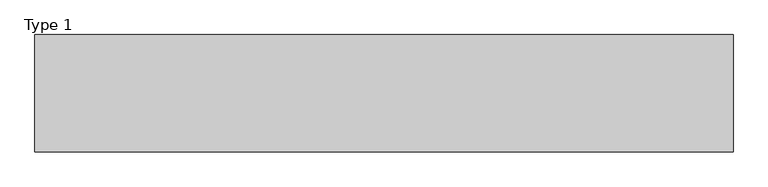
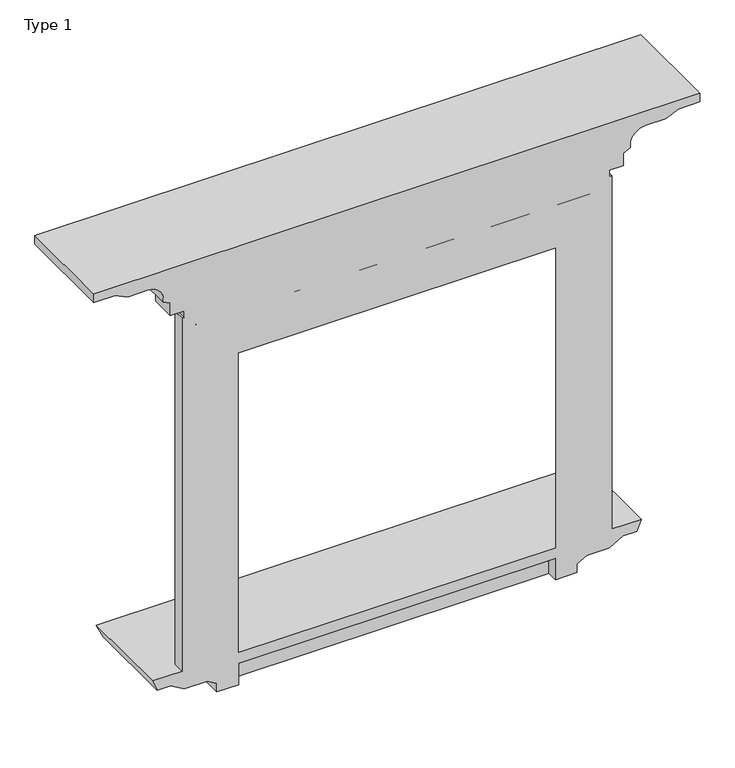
"""IFC4 building model written with IfcOpenShell, lengths in millimetres: proxy geometry, Family1.rfa1222wcd31 : Type 1."""

from ifc_helpers import new_model, si_unit, frame, origin, place, context, project, spatial, polyline, circle_curve, ellipse_curve, source, transform, mapped, element, save
from ifc_brep_helpers import plane_surface, revolved_surface, advanced_brep


def type_1_d73fb033(model_context):
    return source(origin(), model_context, "Body", "AdvancedBrep", [
        advanced_brep(
        [(-1215.0, 300.0, 2799.5096396), (-1215.0, 300.0, 2759.5096396), (-1120.0, 300.0, 2759.5096396), (-1065.6215328, 300.0, 2734.1525439), (-975.6215328, 300.0, 2734.1525439), (-908.1288338, 300.0, 2653.7178773), (-876.4080612, 300.0, 2638.9262382), (-876.4080612, 300.0, 2579.5096396), (-815.0, 300.0, 2579.5096396), (-815.0, 300.0, 2550.0), (-825.0, 300.0, 2550.0), (-825.0, 300.0, 900.0), (-955.0, 300.0, 900.0), (-935.3873986, 300.0, 850.0), (-875.0, 300.0, 850.0), (-814.3782217, 300.0, 815.0), (-714.3782217, 300.0, 815.0), (-671.0769515, 300.0, 790.0), (-671.0769515, 300.0, 750.0), (-575.0, 300.0, 750.0), (-575.0, 300.0, 850.0), (825.0, 300.0, 850.0), (825.0, 300.0, 750.0), (921.0769515, 300.0, 750.0), (921.0769515, 300.0, 790.0), (964.3782217, 300.0, 815.0), (1064.3782217, 300.0, 815.0), (1125.0, 300.0, 850.0), (1185.3873986, 300.0, 850.0), (1205.0, 300.0, 900.0), (1075.0, 300.0, 900.0), (1075.0, 300.0, 2550.0), (1064.3782217, 300.0, 2550.0), (1064.3782217, 300.0, 2579.5096396), (1125.7862829, 300.0, 2579.5096396), (1125.7862829, 300.0, 2638.9262382), (1157.5070555, 300.0, 2653.7178773), (1224.9997545, 300.0, 2734.1525439), (1314.9997545, 300.0, 2734.1525439), (1369.3782217, 300.0, 2759.5096396), (1464.3782217, 300.0, 2759.5096396), (1464.3782217, 300.0, 2799.5096396), (825.0, 300.0, 2300.0), (825.0, 300.0, 900.0), (-575.0, 300.0, 900.0), (-575.0, 300.0, 2300.0), (1464.3782217, 750.0, 2799.5096396), (-1215.0, 750.0, 2799.5096396), (-1215.0, 750.0, 2759.5096396), (1464.3782217, 750.0, 2759.5096396), (1369.3782217, 655.0, 2759.5096396), (-1120.0, 655.0, 2759.5096396), (-1065.6215328, 600.6215328, 2734.1525439), (1314.9997545, 600.6215328, 2734.1525439), (1224.9997545, 510.6215328, 2734.1525439), (-975.6215328, 510.6215328, 2734.1525439), (-908.1288338, 443.1288338, 2653.7178773), (-876.4080612, 411.4080612, 2638.9262382), (-876.4080612, 411.4080612, 2579.5096396), (1125.7862829, 411.4080612, 2579.5096396), (1064.3782217, 350.0, 2579.5096396), (-815.0, 350.0, 2579.5096396), (1157.5070555, 443.1288338, 2653.7178773), (1125.7862829, 411.4080612, 2638.9262382), (1064.3782217, 350.0, 2550.0), (-815.0, 350.0, 2550.0), (847.4975663, 326.8115555, 2322.4975663), (847.4975663, 326.8115555, 900.0), (-597.4975663, 326.8115555, 2322.4975663), (-597.4975663, 326.8115555, 900.0), (-637.4975663, 326.8115555, 900.0), (-637.4975663, 326.8115555, 2362.4975663), (887.4975663, 326.8115555, 2362.4975663), (887.4975663, 326.8115555, 900.0), (915.7237184, 328.4289525, 2390.7237184), (915.7237184, 328.4289525, 900.0), (-665.7237184, 328.4289525, 2390.7237184), (-665.7237184, 328.4289525, 900.0), (-695.7237184, 328.4289525, 900.0), (-695.7237184, 328.4289525, 2420.7237184), (945.7237184, 328.4289525, 2420.7237184), (945.7237184, 328.4289525, 900.0), (976.2275363, 350.0, 2451.2275363), (976.2275363, 350.0, 900.0), (-726.2275363, 350.0, 2451.2275363), (-726.2275363, 350.0, 900.0), (-752.6137347, 350.0, 900.0), (-752.6137347, 350.0, 2477.6137347), (1002.6137347, 350.0, 2477.6137347), (1002.6137347, 350.0, 900.0), (1003.6790562, 331.9713952, 2478.6790562), (1003.6790562, 331.9713952, 900.0), (-753.6790562, 331.9713952, 2478.6790562), (-753.6790562, 331.9713952, 900.0), (-793.6790562, 331.9713952, 900.0), (-793.6790562, 331.9713952, 2518.6790562), (1043.6790562, 331.9713952, 2518.6790562), (1043.6790562, 331.9713952, 900.0), (1050.5194591, 350.7652476, 2525.5194591), (1050.5194591, 350.7652476, 900.0), (-800.5194591, 350.7652476, 2525.5194591), (-800.5194591, 350.7652476, 900.0), (-825.0, 350.7652476, 900.0), (-825.0, 350.7652476, 2550.0), (1075.0, 350.7652476, 2550.0), (1075.0, 350.7652476, 900.0), (-955.0, 730.0, 900.0), (-935.3873986, 710.3873986, 850.0), (1185.3873986, 710.3873986, 850.0), (1125.0, 650.0, 850.0), (-875.0, 650.0, 850.0), (-814.3782217, 589.3782217, 815.0), (1064.3782217, 589.3782217, 815.0), (964.3782217, 489.3782217, 815.0), (-714.3782217, 489.3782217, 815.0), (-671.0769515, 446.0769515, 790.0), (-671.0769515, 446.0769515, 750.0), (921.0769515, 446.0769515, 750.0), (825.0, 350.0, 750.0), (-575.0, 350.0, 750.0), (-575.0, 350.0, 850.0), (1205.0, 730.0, 900.0), (921.0769515, 446.0769515, 790.0), (825.0, 350.0, 850.0)],
        [
            (0, 1),
            (1, 2),
            (2, 3),
            (3, 4),
            (4, 5, circle_curve(frame((-975.6215328, 300.0, 2665.6186612), z_axis=(0.0, 1.0, 0.0), x_axis=(-1.0, 0.0, 0.0)), 68.5338827)),
            (5, 6),
            (6, 7),
            (7, 8),
            (8, 9),
            (9, 10),
            (10, 11),
            (11, 12),
            (12, 13),
            (13, 14),
            (14, 15),
            (15, 16),
            (16, 17),
            (17, 18),
            (18, 19),
            (19, 20),
            (20, 21),
            (21, 22),
            (22, 23),
            (23, 24),
            (24, 25),
            (25, 26),
            (26, 27),
            (27, 28),
            (28, 29),
            (29, 30),
            (30, 31),
            (31, 32),
            (32, 33),
            (33, 34),
            (34, 35),
            (35, 36),
            (36, 37, circle_curve(frame((1224.9997545, 300.0, 2665.6186612), z_axis=(0.0, 1.0, 0.0), x_axis=(1.0, 0.0, 0.0)), 68.5338827)),
            (37, 38),
            (38, 39),
            (39, 40),
            (40, 41),
            (41, 0),
            (42, 43),
            (43, 44),
            (44, 45),
            (45, 42),
            (41, 46),
            (46, 47),
            (47, 0),
            (47, 48),
            (48, 1),
            (48, 49),
            (49, 40),
            (39, 50),
            (50, 51),
            (51, 2),
            (51, 52),
            (52, 3),
            (52, 53),
            (53, 38),
            (37, 54),
            (54, 55),
            (55, 4),
            (55, 56, ellipse_curve(frame((-975.6215328, 510.6215328, 2665.6186612), z_axis=(0.7071067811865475, 0.7071067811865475, 0.0), x_axis=(-0.7071067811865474, 0.7071067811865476, 0.0)), 96.9215464, 68.5338827)),
            (56, 5),
            (56, 57),
            (57, 6),
            (57, 58),
            (58, 7),
            (58, 59),
            (59, 34),
            (33, 60),
            (60, 61),
            (61, 8),
            (46, 49),
            (50, 53),
            (54, 62, ellipse_curve(frame((1224.9997545, 510.6215328, 2665.6186612), z_axis=(0.7071067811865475, -0.7071067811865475, 0.0), x_axis=(0.7071067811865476, 0.7071067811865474, 0.0)), 96.9215464, 68.5338827)),
            (62, 56),
            (62, 63),
            (63, 57),
            (63, 59),
            (36, 62),
            (35, 63),
            (60, 64),
            (64, 65),
            (65, 61),
            (65, 9),
            (32, 64),
            (42, 66),
            (66, 67),
            (67, 43),
            (66, 68),
            (68, 69),
            (69, 70),
            (70, 71),
            (71, 72),
            (72, 73),
            (73, 67),
            (72, 74, ellipse_curve(frame((901.2586589, 333.7629252, 2376.2586589), z_axis=(-0.7071067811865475, 0.0, 0.7071067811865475), x_axis=(0.7071067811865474, 0.0, 0.7071067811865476)), 21.8031745, 15.4171726)),
            (74, 75),
            (75, 73, circle_curve(frame((901.2586589, 333.7629252, 900.0), z_axis=(0.0, 0.0, -1.0), x_axis=(1.0, 0.0, 0.0)), 15.4171726)),
            (74, 76),
            (76, 77),
            (77, 78),
            (78, 79),
            (79, 80),
            (80, 81),
            (81, 75),
            (80, 82),
            (82, 83),
            (83, 81),
            (82, 84),
            (84, 85),
            (85, 86),
            (86, 87),
            (87, 88),
            (88, 89),
            (89, 83),
            (88, 90, ellipse_curve(frame((1003.6104256, 341.0131174, 2478.6104256), z_axis=(-0.7071067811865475, 0.0, 0.7071067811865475), x_axis=(0.7071067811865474, 0.0, 0.7071067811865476)), 12.7872946, 9.0419827)),
            (90, 91),
            (91, 89, circle_curve(frame((1003.6104256, 341.0131174, 900.0), z_axis=(0.0, 0.0, -1.0), x_axis=(1.0, 0.0, 0.0)), 9.0419827)),
            (90, 92),
            (92, 93),
            (93, 94),
            (94, 95),
            (95, 96),
            (96, 97),
            (97, 91),
            (96, 98),
            (98, 99),
            (99, 97),
            (98, 100),
            (100, 101),
            (101, 102),
            (102, 103),
            (103, 104),
            (104, 105),
            (105, 99),
            (30, 105),
            (104, 31),
            (45, 68),
            (71, 76, ellipse_curve(frame((-651.2586589, 333.7629252, 2376.2586589), z_axis=(-0.7071067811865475, 0.0, -0.7071067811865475), x_axis=(-0.7071067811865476, 0.0, 0.7071067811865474)), 21.8031745, 15.4171726)),
            (79, 84),
            (87, 92, ellipse_curve(frame((-753.6104256, 341.0131174, 2478.6104256), z_axis=(-0.7071067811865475, 0.0, -0.7071067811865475), x_axis=(-0.7071067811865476, 0.0, 0.7071067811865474)), 12.7872946, 9.0419827)),
            (95, 100),
            (103, 10),
            (44, 69),
            (70, 77, circle_curve(frame((-651.2586589, 333.7629252, 900.0), z_axis=(0.0, 0.0, -1.0), x_axis=(-1.0, 0.0, 0.0)), 15.4171726)),
            (78, 85),
            (86, 93, circle_curve(frame((-753.6104256, 341.0131174, 900.0), z_axis=(0.0, 0.0, -1.0), x_axis=(-1.0, 0.0, 0.0)), 9.0419827)),
            (94, 101),
            (102, 11),
            (12, 106),
            (106, 107),
            (107, 13),
            (107, 108),
            (108, 28),
            (27, 109),
            (109, 110),
            (110, 14),
            (110, 111),
            (111, 15),
            (111, 112),
            (112, 26),
            (25, 113),
            (113, 114),
            (114, 16),
            (114, 115),
            (115, 17),
            (115, 116),
            (116, 18),
            (116, 117),
            (117, 23),
            (22, 118),
            (118, 119),
            (119, 19),
            (119, 120),
            (120, 20),
            (29, 121),
            (121, 106),
            (121, 108),
            (109, 112),
            (113, 122),
            (122, 115),
            (122, 117),
            (118, 123),
            (123, 120),
            (24, 122),
            (21, 123),
        ],
        [
            plane_surface(frame((-815.0, 300.0, 2579.5096396), z_axis=(0.0, -1.0, 0.0), x_axis=(0.0, 0.0, 1.0))),
            plane_surface(frame((-815.0, 300.0, 2799.5096396), z_axis=(0.0, 0.0, 1.0), x_axis=(0.0, 1.0, 0.0))),
            plane_surface(frame((-1215.0, 300.0, 2799.5096396), z_axis=(-1.0, 0.0, 0.0), x_axis=(0.0, 1.0, 0.0))),
            plane_surface(frame((-1215.0, 300.0, 2759.5096396), z_axis=(0.0, 0.0, -1.0), x_axis=(0.0, 1.0, 0.0))),
            plane_surface(frame((-1120.0, 300.0, 2759.5096396), z_axis=(-0.42261826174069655, 0.0, -0.9063077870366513), x_axis=(0.0, 1.0, 0.0))),
            plane_surface(frame((-1065.6215328, 300.0, 2734.1525439), z_axis=(0.0, 0.0, -1.0), x_axis=(0.0, 1.0, 0.0))),
            revolved_surface(polyline([(-1044.1554155, 579.1554155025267, 2665.6186612), (-1044.1554155, 300.0, 2665.6186612)]), (-975.6215328, 300.0, 2665.6186612), (0.0, 1.0, 0.0)),
            plane_surface(frame((-908.1288338, 300.0, 2653.7178773), z_axis=(-0.4226182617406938, 0.0, -0.9063077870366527), x_axis=(0.0, 1.0, 0.0))),
            plane_surface(frame((-876.4080612, 300.0, 2638.9262382), z_axis=(-1.0, 0.0, 0.0), x_axis=(0.0, 1.0, 0.0))),
            plane_surface(frame((-876.4080612, 300.0, 2579.5096396), z_axis=(0.0, 0.0, -1.0), x_axis=(0.0, 1.0, 0.0))),
            plane_surface(frame((-1215.0, 750.0, 2799.5096396), z_axis=(0.0, 1.0, 0.0), x_axis=(1.0, 0.0, 0.0))),
            plane_surface(frame((-1120.0, 655.0, 2759.5096396), z_axis=(0.0, 0.42261826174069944, -0.9063077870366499), x_axis=(1.0, 0.0, 0.0))),
            revolved_surface(polyline([(1293.5336372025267, 579.1554155, 2665.6186612), (-1044.1554155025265, 579.1554155, 2665.6186612)]), (-815.0, 510.6215328, 2665.6186612), (1.0, 0.0, 0.0)),
            plane_surface(frame((-908.1288338, 443.1288338, 2653.7178773), z_axis=(0.0, 0.42261826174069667, -0.9063077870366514), x_axis=(1.0, 0.0, 0.0))),
            plane_surface(frame((-876.4080612, 411.4080612, 2638.9262382), z_axis=(0.0, 1.0, 0.0), x_axis=(1.0, 0.0, 0.0))),
            plane_surface(frame((1464.3782217, 750.0, 2799.5096396), z_axis=(1.0, 0.0, 0.0), x_axis=(0.0, -1.0, 0.0))),
            plane_surface(frame((1369.3782217, 655.0, 2759.5096396), z_axis=(0.42261826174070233, 0.0, -0.9063077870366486), x_axis=(0.0, -1.0, 0.0))),
            revolved_surface(polyline([(1293.5336372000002, 300.0, 2665.6186612), (1293.5336372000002, 579.1554155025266, 2665.6186612)]), (1224.9997545, 350.0, 2665.6186612), (0.0, -1.0, 0.0)),
            plane_surface(frame((1157.5070555, 443.1288338, 2653.7178773), z_axis=(0.42261826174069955, 0.0, -0.90630778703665), x_axis=(0.0, -1.0, 0.0))),
            plane_surface(frame((1125.7862829, 411.4080612, 2638.9262382), z_axis=(1.0, 0.0, 0.0), x_axis=(0.0, -1.0, 0.0))),
            plane_surface(frame((1064.3782217, 350.0, 2799.5096396), z_axis=(0.0, 1.0, 0.0), x_axis=(0.0, 0.0, -1.0))),
            plane_surface(frame((-815.0, 350.0, 2799.5096396), z_axis=(-1.0, 0.0, 0.0), x_axis=(0.0, 0.0, -1.0))),
            plane_surface(frame((1064.3782217, 300.0, 2799.5096396), z_axis=(1.0, 0.0, 0.0), x_axis=(0.0, 0.0, -1.0))),
            plane_surface(frame((825.0, 300.0, 900.0), z_axis=(-0.7660444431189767, 0.642787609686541, 0.0), x_axis=(0.0, 0.0, 1.0))),
            plane_surface(frame((847.4975663, 326.8115555, 900.0), z_axis=(0.0, 1.0, 0.0), x_axis=(0.0, 0.0, 1.0))),
            revolved_surface(polyline([(916.6758315, 333.7629252, 2391.6758314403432), (916.6758315, 333.7629252, 900.0)]), (901.2586589, 333.7629252, 900.0), (0.0, 0.0, 1.0)),
            plane_surface(frame((915.7237184, 328.4289525, 900.0), z_axis=(0.0, 1.0, 0.0), x_axis=(0.0, 0.0, 1.0))),
            plane_surface(frame((945.7237184, 328.4289525, 900.0), z_axis=(-0.5773786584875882, 0.8164765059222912, 0.0), x_axis=(0.0, 0.0, 1.0))),
            plane_surface(frame((976.2275363, 350.0, 900.0), z_axis=(0.0, 1.0, 0.0), x_axis=(0.0, 0.0, 1.0))),
            revolved_surface(polyline([(1012.6524082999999, 341.0131174, 2487.65240832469), (1012.6524082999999, 341.0131174, 900.0)]), (1003.6104256, 341.0131174, 900.0), (0.0, 0.0, 1.0)),
            plane_surface(frame((1003.6790562, 331.9713952, 900.0), z_axis=(0.0, 1.0, 0.0), x_axis=(0.0, 0.0, 1.0))),
            plane_surface(frame((1043.6790562, 331.9713952, 900.0), z_axis=(-0.9396926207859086, 0.34202014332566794, 0.0), x_axis=(0.0, 0.0, 1.0))),
            plane_surface(frame((1050.5194591, 350.7652476, 900.0), z_axis=(0.0, 1.0, 0.0), x_axis=(0.0, 0.0, 1.0))),
            plane_surface(frame((1075.0, 350.7652476, 900.0), z_axis=(1.0, 0.0, 0.0), x_axis=(0.0, 0.0, 1.0))),
            plane_surface(frame((825.0, 300.0, 2300.0), z_axis=(0.0, 0.642787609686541, -0.7660444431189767), x_axis=(-1.0, 0.0, 0.0))),
            revolved_surface(polyline([(-666.6758314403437, 333.7629252, 2391.6758314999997), (916.6758314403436, 333.7629252, 2391.6758314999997)]), (825.0, 333.7629252, 2376.2586589), (-1.0, 0.0, 0.0)),
            plane_surface(frame((945.7237184, 328.4289525, 2420.7237184), z_axis=(0.0, 0.8164765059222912, -0.5773786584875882), x_axis=(-1.0, 0.0, 0.0))),
            revolved_surface(polyline([(-762.65240832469, 341.0131174, 2487.6524083), (1012.6524083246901, 341.0131174, 2487.6524083)]), (825.0, 341.0131174, 2478.6104256), (-1.0, 0.0, 0.0)),
            plane_surface(frame((1043.6790562, 331.9713952, 2518.6790562), z_axis=(0.0, 0.34202014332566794, -0.9396926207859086), x_axis=(-1.0, 0.0, 0.0))),
            plane_surface(frame((1075.0, 350.7652476, 2550.0), z_axis=(0.0, 0.0, 1.0), x_axis=(-1.0, 0.0, 0.0))),
            plane_surface(frame((-575.0, 300.0, 2300.0), z_axis=(0.7660444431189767, 0.642787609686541, 0.0), x_axis=(0.0, 0.0, -1.0))),
            revolved_surface(polyline([(-666.6758315, 333.7629252, 900.0), (-666.6758315, 333.7629252, 2391.6758314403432)]), (-651.2586589, 333.7629252, 2300.0), (0.0, 0.0, -1.0)),
            plane_surface(frame((-695.7237184, 328.4289525, 2420.7237184), z_axis=(0.5773786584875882, 0.8164765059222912, 0.0), x_axis=(0.0, 0.0, -1.0))),
            revolved_surface(polyline([(-762.6524082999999, 341.0131174, 900.0), (-762.6524082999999, 341.0131174, 2487.65240832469)]), (-753.6104256, 341.0131174, 2300.0), (0.0, 0.0, -1.0)),
            plane_surface(frame((-793.6790562, 331.9713952, 2518.6790562), z_axis=(0.9396926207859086, 0.34202014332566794, 0.0), x_axis=(0.0, 0.0, -1.0))),
            plane_surface(frame((-825.0, 350.7652476, 2550.0), z_axis=(-1.0, 0.0, 0.0), x_axis=(0.0, 0.0, -1.0))),
            plane_surface(frame((-955.0, 300.0, 900.0), z_axis=(-0.9309430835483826, 0.0, -0.36516431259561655), x_axis=(0.0, 1.0, 0.0))),
            plane_surface(frame((-935.3873986, 300.0, 850.0), z_axis=(0.0, 0.0, -1.0), x_axis=(0.0, 1.0, 0.0))),
            plane_surface(frame((-875.0, 300.0, 850.0), z_axis=(-0.5000000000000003, 0.0, -0.8660254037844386), x_axis=(0.0, 1.0, 0.0))),
            plane_surface(frame((-814.3782217, 300.0, 815.0), z_axis=(0.0, 0.0, -1.0), x_axis=(0.0, 1.0, 0.0))),
            plane_surface(frame((-714.3782217, 300.0, 815.0), z_axis=(-0.49999999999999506, 0.0, -0.8660254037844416), x_axis=(0.0, 1.0, 0.0))),
            plane_surface(frame((-671.0769515, 300.0, 790.0), z_axis=(-1.0, 0.0, 0.0), x_axis=(0.0, 1.0, 0.0))),
            plane_surface(frame((-671.0769515, 300.0, 750.0), z_axis=(0.0, 0.0, -1.0), x_axis=(0.0, 1.0, 0.0))),
            plane_surface(frame((-575.0, 300.0, 750.0), z_axis=(1.0, 0.0, 0.0), x_axis=(0.0, 1.0, 0.0))),
            plane_surface(frame((-575.0, 300.0, 900.0), z_axis=(0.0, 0.0, 1.0), x_axis=(0.0, 1.0, 0.0))),
            plane_surface(frame((-955.0, 730.0, 900.0), z_axis=(0.0, 0.9309430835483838, -0.3651643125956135), x_axis=(1.0, 0.0, 0.0))),
            plane_surface(frame((-875.0, 650.0, 850.0), z_axis=(0.0, 0.5000000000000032, -0.8660254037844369), x_axis=(1.0, 0.0, 0.0))),
            plane_surface(frame((-714.3782217, 489.3782217, 815.0), z_axis=(0.0, 0.4999999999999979, -0.8660254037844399), x_axis=(1.0, 0.0, 0.0))),
            plane_surface(frame((-671.0769515, 446.0769515, 790.0), z_axis=(0.0, 1.0, 0.0), x_axis=(1.0, 0.0, 0.0))),
            plane_surface(frame((-575.0, 350.0, 750.0), z_axis=(0.0, -1.0, 0.0), x_axis=(1.0, 0.0, 0.0))),
            plane_surface(frame((1205.0, 730.0, 900.0), z_axis=(0.9309430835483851, 0.0, -0.36516431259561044), x_axis=(0.0, -1.0, 0.0))),
            plane_surface(frame((1125.0, 650.0, 850.0), z_axis=(0.5000000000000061, 0.0, -0.8660254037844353), x_axis=(0.0, -1.0, 0.0))),
            plane_surface(frame((964.3782217, 489.3782217, 815.0), z_axis=(0.5000000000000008, 0.0, -0.8660254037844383), x_axis=(0.0, -1.0, 0.0))),
            plane_surface(frame((921.0769515, 446.0769515, 790.0), z_axis=(1.0, 0.0, 0.0), x_axis=(0.0, -1.0, 0.0))),
            plane_surface(frame((825.0, 350.0, 750.0), z_axis=(-1.0, 0.0, 0.0), x_axis=(0.0, -1.0, 0.0))),
            plane_surface(frame((825.0, 350.0, 850.0), z_axis=(0.0, 0.0, -1.0), x_axis=(0.0, -1.0, 0.0))),
        ],
        [
            (0, [[1, 2, 3, 4, 5, 6, 7, 8, 9, 10, 11, 12, 13, 14, 15, 16, 17, 18, 19, 20, 21, 22, 23, 24, 25, 26, 27, 28, 29, 30, 31, 32, 33, 34, 35, 36, 37, 38, 39, 40, 41, 42], [43, 44, 45, 46]]),
            (1, [[47, 48, 49, -42]]),
            (2, [[-1, -49, 50, 51]]),
            (3, [[-2, -51, 52, 53, -40, 54, 55, 56]]),
            (4, [[-3, -56, 57, 58]]),
            (5, [[-4, -58, 59, 60, -38, 61, 62, 63]]),
            (6, [[-5, -63, 64, 65]]),
            (7, [[-6, -65, 66, 67]]),
            (8, [[-7, -67, 68, 69]]),
            (9, [[-8, -69, 70, 71, -34, 72, 73, 74]]),
            (10, [[-48, 75, -52, -50]]),
            (11, [[-55, 76, -59, -57]]),
            (12, [[-62, 77, 78, -64]]),
            (13, [[-66, -78, 79, 80]]),
            (14, [[-68, -80, 81, -70]]),
            (15, [[-47, -41, -53, -75]]),
            (16, [[-54, -39, -60, -76]]),
            (17, [[-61, -37, 82, -77]]),
            (18, [[-79, -82, -36, 83]]),
            (19, [[-71, -81, -83, -35]]),
            (20, [[-73, 84, 85, 86]]),
            (21, [[-74, -86, 87, -9]]),
            (22, [[-72, -33, 88, -84]]),
            (23, [[-43, 89, 90, 91]]),
            (24, [[-90, 92, 93, 94, 95, 96, 97, 98]]),
            (25, [[-97, 99, 100, 101]]),
            (26, [[-100, 102, 103, 104, 105, 106, 107, 108]]),
            (27, [[-107, 109, 110, 111]]),
            (28, [[-110, 112, 113, 114, 115, 116, 117, 118]]),
            (29, [[-117, 119, 120, 121]]),
            (30, [[-120, 122, 123, 124, 125, 126, 127, 128]]),
            (31, [[-127, 129, 130, 131]]),
            (32, [[-130, 132, 133, 134, 135, 136, 137, 138]]),
            (33, [[-31, 139, -137, 140]]),
            (34, [[-46, 141, -92, -89]]),
            (35, [[-96, 142, -102, -99]]),
            (36, [[-106, 143, -112, -109]]),
            (37, [[-116, 144, -122, -119]]),
            (38, [[-126, 145, -132, -129]]),
            (39, [[-136, 146, -10, -87, -85, -88, -32, -140]]),
            (40, [[-45, 147, -93, -141]]),
            (41, [[-95, 148, -103, -142]]),
            (42, [[-105, 149, -113, -143]]),
            (43, [[-115, 150, -123, -144]]),
            (44, [[-125, 151, -133, -145]]),
            (45, [[-11, -146, -135, 152]]),
            (46, [[-13, 153, 154, 155]]),
            (47, [[-14, -155, 156, 157, -28, 158, 159, 160]]),
            (48, [[-15, -160, 161, 162]]),
            (49, [[-16, -162, 163, 164, -26, 165, 166, 167]]),
            (50, [[-17, -167, 168, 169]]),
            (51, [[-18, -169, 170, 171]]),
            (52, [[-19, -171, 172, 173, -23, 174, 175, 176]]),
            (53, [[-176, 177, 178, -20]]),
            (54, [[-153, -12, -152, -134, -151, -124, -150, -114, -149, -104, -148, -94, -147, -44, -91, -98, -101, -108, -111, -118, -121, -128, -131, -138, -139, -30, 179, 180]]),
            (55, [[-154, -180, 181, -156]]),
            (56, [[-159, 182, -163, -161]]),
            (57, [[-166, 183, 184, -168]]),
            (58, [[-170, -184, 185, -172]]),
            (59, [[-175, 186, 187, -177]]),
            (60, [[-157, -181, -179, -29]]),
            (61, [[-158, -27, -164, -182]]),
            (62, [[-165, -25, 188, -183]]),
            (63, [[-173, -185, -188, -24]]),
            (64, [[-174, -22, 189, -186]]),
            (65, [[-21, -178, -187, -189]]),
        ],
    ),
    ])


if __name__ == "__main__":
    model = new_model("IFC4")
    model_context = context("Model", 3, world=origin())
    ifc_project = project(units=[si_unit("LENGTHUNIT", "METRE", prefix="MILLI")], contexts=[model_context])
    site = spatial("IfcSite", under=ifc_project)
    building = spatial("IfcBuilding", under=site)
    placement = place(None, origin())
    type_1_shape = type_1_d73fb033(model_context)
    element("IfcBuildingElementProxy", 1, Name="Family1.rfa1222wcd31 : Type 1", ObjectType="Family1.rfa1222wcd31 : Type 1", at=placement, inside=building, context=model_context, shape_type="MappedRepresentation", body=[
        mapped(type_1_shape, transform((0.0, 0.0, 0.0), x_axis=(1.0, 0.0, 0.0), y_axis=(0.0, 1.0, 0.0), z_axis=(0.0, 0.0, 1.0))),
    ])
    save(model, "model.ifc")
